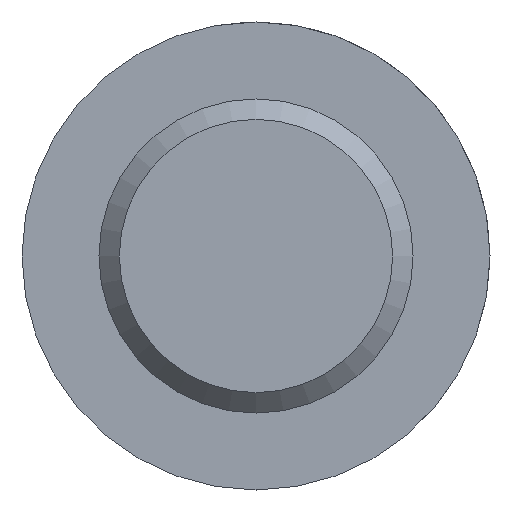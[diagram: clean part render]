
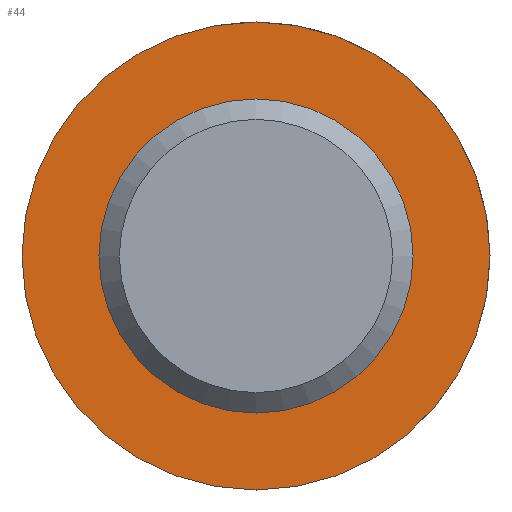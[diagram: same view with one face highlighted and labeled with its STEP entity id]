
A CAD part, front view. The second image highlights one B-rep face of the part: STEP entity #44.
In plain terms, the highlighted planar face has unit normal (0, -1, 0).
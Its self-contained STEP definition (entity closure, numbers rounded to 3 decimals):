
#44 = ADVANCED_FACE( '', ( #89, #90 ), #91, .F. );
#89 = FACE_BOUND( '', #166, .T. );
#90 = FACE_OUTER_BOUND( '', #167, .T. );
#91 = PLANE( '', #168 );
#166 = EDGE_LOOP( '', ( #214 ) );
#167 = EDGE_LOOP( '', ( #215 ) );
#168 = AXIS2_PLACEMENT_3D( '', #216, #217, #218 );
#214 = ORIENTED_EDGE( '', *, *, #247, .F. );
#215 = ORIENTED_EDGE( '', *, *, #261, .T. );
#216 = CARTESIAN_POINT( '', ( 9.8, 8., 0. ) );
#217 = DIRECTION( '', ( 0., 1., 0. ) );
#218 = DIRECTION( '', ( 0., 0., 1. ) );
#247 = EDGE_CURVE( '', #270, #270, #271, .T. );
#261 = EDGE_CURVE( '', #292, #292, #293, .T. );
#270 = VERTEX_POINT( '', #302 );
#271 = CIRCLE( '', #303, 6.579 );
#292 = VERTEX_POINT( '', #359 );
#293 = CIRCLE( '', #360, 9.8 );
#302 = CARTESIAN_POINT( '', ( 0., 8., -6.579 ) );
#303 = AXIS2_PLACEMENT_3D( '', #370, #371, #372 );
#359 = CARTESIAN_POINT( '', ( 0., 8., -9.8 ) );
#360 = AXIS2_PLACEMENT_3D( '', #389, #390, #391 );
#370 = CARTESIAN_POINT( '', ( 0., 8., 0. ) );
#371 = DIRECTION( '', ( 0., -1., 0. ) );
#372 = DIRECTION( '', ( 0., 0., -1. ) );
#389 = CARTESIAN_POINT( '', ( 0., 8., 0. ) );
#390 = DIRECTION( '', ( 0., -1., 0. ) );
#391 = DIRECTION( '', ( 0., 0., -1. ) );
